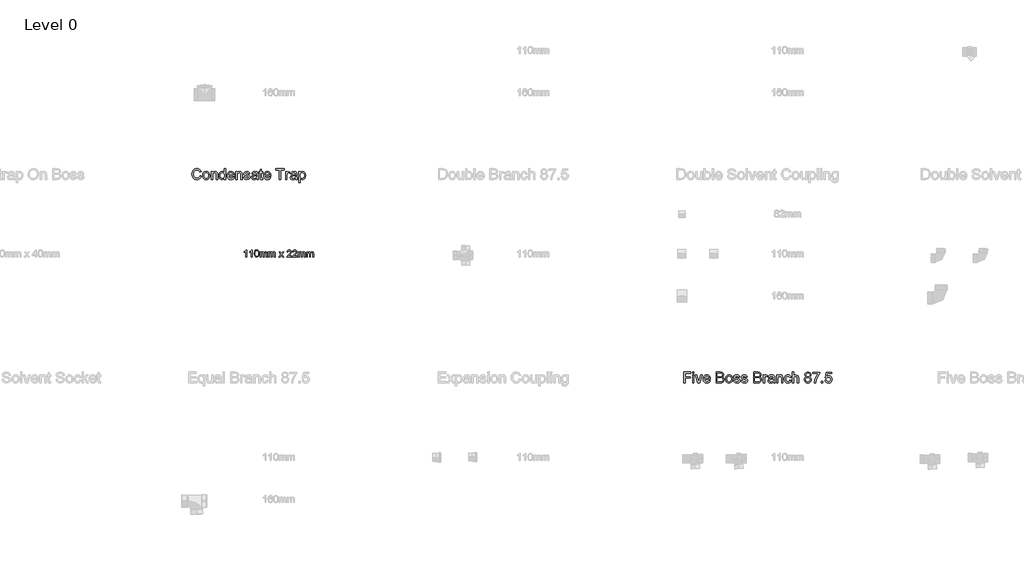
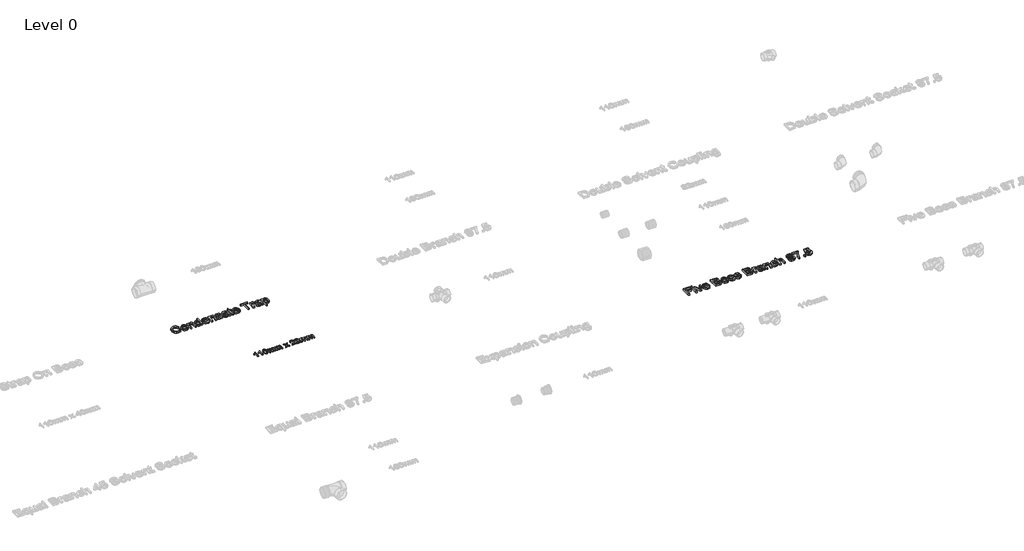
# One storey, part 22 of 28: 3 proxies.
"""IFC4 building model written with IfcOpenShell, lengths in millimetres."""

from ifc_helpers import new_model, si_unit, origin, origin_with_axes, place, context, project, spatial, polyline, outline, extrude, element, save

model = new_model("IFC4")

# Units and contexts
model_context = context("Model", 3, world=origin())
ifc_project = project(units=[si_unit("LENGTHUNIT", "METRE", prefix="MILLI")], contexts=[model_context])

# Site, building, storey
site = spatial("IfcSite", under=ifc_project)
building = spatial("IfcBuilding", under=site)
storey = spatial("IfcBuildingStorey", under=building, Name="Level 0", Elevation=0.0)

# Proxies
placement = place(None, origin())
element("IfcBuildingElementProxy", 1, Name="100mm Arial", ObjectType="100mm Arial", at=placement, inside=storey, context=model_context, shape_type="SweptSolid", body=[
    extrude(outline(polyline([(-7054.0370111, 5437.7167304), (-7066.3447034, 5437.7167304), (-7066.3447034, 5514.4474996), (-7078.0033572, 5506.1422111), (-7090.960088, 5499.9282688), (-7090.960088, 5511.5628842), (-7072.9192226, 5523.0773073), (-7061.9697034, 5536.1782688), (-7054.0370111, 5536.1782688), (-7054.0370111, 5437.7167304)])), origin_with_axes(), (0.0, 0.0, 1.0), 15.0),
    extrude(outline(polyline([(-6978.6523957, 5437.7167304), (-6990.960088, 5437.7167304), (-6990.960088, 5514.4474996), (-7002.6187418, 5506.1422111), (-7015.5754726, 5499.9282688), (-7015.5754726, 5511.5628842), (-6997.5346072, 5523.0773073), (-6986.585088, 5536.1782688), (-6978.6523957, 5536.1782688), (-6978.6523957, 5437.7167304)])), origin_with_axes(), (0.0, 0.0, 1.0), 15.0),
    extrude(outline(polyline([(-6949.4216264, 5486.1542304), (-6945.803838, 5514.4835573), (-6935.0586457, 5530.8176919), (-6917.1139341, 5536.1782688), (-6902.7389341, 5533.0051919), (-6892.8110495, 5523.8585573), (-6887.0418188, 5509.2912496), (-6884.8062418, 5486.1542304), (-6888.3879726, 5457.9450958), (-6899.0971072, 5441.5749035), (-6917.1139341, 5436.1782688), (-6929.9023957, 5438.5220188), (-6939.6139341, 5445.5532688), (-6946.9697034, 5462.2059131), (-6949.4216264, 5486.1542304)]), holes=[polyline([(-6937.1139341, 5486.1782688), (-6935.6716264, 5466.8182929), (-6931.3447034, 5455.613365), (-6924.9023957, 5450.2678121), (-6917.1139341, 5448.4859611), (-6909.3254726, 5450.2738217), (-6902.8831649, 5455.6374035), (-6898.5562418, 5466.848341), (-6897.1139341, 5486.1782688), (-6898.5081649, 5505.1025477), (-6902.6908572, 5516.394615), (-6909.1211457, 5522.0015861), (-6917.2581649, 5523.8705765), (-6924.9624918, 5522.2239419), (-6931.1523957, 5517.2840381), (-6935.6235495, 5505.2888458), (-6937.1139341, 5486.1782688)])]), origin_with_axes(), (0.0, 0.0, 1.0), 15.0),
    extrude(outline(polyline([(-6870.960088, 5437.7167304), (-6870.960088, 5510.0244227), (-6858.6523957, 5510.0244227), (-6858.6523957, 5498.1253842), (-6850.1908572, 5507.8729804), (-6838.147588, 5511.5628842), (-6825.8158572, 5507.800865), (-6819.0370111, 5497.2599996), (-6809.4336457, 5507.9871631), (-6797.3062418, 5511.5628842), (-6788.0544389, 5510.0755044), (-6781.2124918, 5505.613365), (-6776.9847274, 5498.0562736), (-6775.5754726, 5487.2840381), (-6775.5754726, 5437.7167304), (-6787.8831649, 5437.7167304), (-6787.8831649, 5481.9955765), (-6789.0249918, 5492.2720188), (-6793.1596072, 5497.332115), (-6800.1908572, 5499.2551919), (-6812.2942226, 5494.3273073), (-6817.1139341, 5478.5340381), (-6817.1139341, 5437.7167304), (-6829.4216264, 5437.7167304), (-6829.4216264, 5483.3657688), (-6832.2701841, 5495.2888458), (-6841.6091264, 5499.2551919), (-6850.7197034, 5496.6109611), (-6856.7773957, 5488.8705765), (-6858.6523957, 5474.1830765), (-6858.6523957, 5437.7167304), (-6870.960088, 5437.7167304)])), origin_with_axes(), (0.0, 0.0, 1.0), 15.0),
    extrude(outline(polyline([(-6757.1139341, 5437.7167304), (-6757.1139341, 5510.0244227), (-6744.8062418, 5510.0244227), (-6744.8062418, 5498.1253842), (-6736.3447034, 5507.8729804), (-6724.3014341, 5511.5628842), (-6711.9697034, 5507.800865), (-6705.1908572, 5497.2599996), (-6695.5874918, 5507.9871631), (-6683.460088, 5511.5628842), (-6674.2082851, 5510.0755044), (-6667.366338, 5505.613365), (-6663.1385736, 5498.0562736), (-6661.7293188, 5487.2840381), (-6661.7293188, 5437.7167304), (-6674.0370111, 5437.7167304), (-6674.0370111, 5481.9955765), (-6675.178838, 5492.2720188), (-6679.3134534, 5497.332115), (-6686.3447034, 5499.2551919), (-6698.4480688, 5494.3273073), (-6703.2677803, 5478.5340381), (-6703.2677803, 5437.7167304), (-6715.5754726, 5437.7167304), (-6715.5754726, 5483.3657688), (-6718.4240303, 5495.2888458), (-6727.7629726, 5499.2551919), (-6736.8735495, 5496.6109611), (-6742.9312418, 5488.8705765), (-6744.8062418, 5474.1830765), (-6744.8062418, 5437.7167304), (-6757.1139341, 5437.7167304)])), origin_with_axes(), (0.0, 0.0, 1.0), 15.0),
    extrude(outline(polyline([(-6612.4985495, 5437.7167304), (-6586.2004726, 5474.0628842), (-6610.960088, 5510.0244227), (-6596.1523957, 5510.0244227), (-6584.2052803, 5492.7167304), (-6578.6283572, 5484.5436535), (-6573.7966264, 5491.2263458), (-6560.1908572, 5510.0244227), (-6545.3831649, 5510.0244227), (-6571.3927803, 5474.0628842), (-6546.3447034, 5437.7167304), (-6561.1523957, 5437.7167304), (-6576.2245111, 5459.5676919), (-6578.9889341, 5463.5580765), (-6597.6908572, 5437.7167304), (-6612.4985495, 5437.7167304)])), origin_with_axes(), (0.0, 0.0, 1.0), 15.0),
    extrude(outline(polyline([(-6437.1139341, 5450.0244227), (-6437.1139341, 5437.7167304), (-6501.7293188, 5437.7167304), (-6500.4072034, 5446.2023073), (-6492.9312418, 5459.2672111), (-6477.522588, 5473.5340381), (-6456.272588, 5494.0388458), (-6450.960088, 5507.9811535), (-6455.9721072, 5519.2672111), (-6469.0610495, 5523.8705765), (-6482.7028764, 5519.3753842), (-6487.8831649, 5506.9474996), (-6500.1908572, 5508.4859611), (-6497.2070832, 5520.3910092), (-6490.7557611, 5529.0869227), (-6481.1734293, 5534.4054323), (-6468.7966264, 5536.1782688), (-6456.3296793, 5534.207115), (-6446.7653764, 5528.2936535), (-6440.6806409, 5519.4595188), (-6438.6523957, 5508.7263458), (-6440.8398957, 5497.0556727), (-6448.1115303, 5484.988365), (-6465.7437418, 5468.1253842), (-6479.9023957, 5456.2864419), (-6485.4552803, 5450.0244227), (-6437.1139341, 5450.0244227)])), origin_with_axes(), (0.0, 0.0, 1.0), 15.0),
    extrude(outline(polyline([(-6361.7293188, 5450.0244227), (-6361.7293188, 5437.7167304), (-6426.3447034, 5437.7167304), (-6425.022588, 5446.2023073), (-6417.5466264, 5459.2672111), (-6402.1379726, 5473.5340381), (-6380.8879726, 5494.0388458), (-6375.5754726, 5507.9811535), (-6380.5874918, 5519.2672111), (-6393.6764341, 5523.8705765), (-6407.3182611, 5519.3753842), (-6412.4985495, 5506.9474996), (-6424.8062418, 5508.4859611), (-6421.8224678, 5520.3910092), (-6415.3711457, 5529.0869227), (-6405.7888139, 5534.4054323), (-6393.4120111, 5536.1782688), (-6380.9450639, 5534.207115), (-6371.3807611, 5528.2936535), (-6365.2960255, 5519.4595188), (-6363.2677803, 5508.7263458), (-6365.4552803, 5497.0556727), (-6372.7269149, 5484.988365), (-6390.3591264, 5468.1253842), (-6404.5177803, 5456.2864419), (-6410.0706649, 5450.0244227), (-6361.7293188, 5450.0244227)])), origin_with_axes(), (0.0, 0.0, 1.0), 15.0),
    extrude(outline(polyline([(-6346.3447034, 5437.7167304), (-6346.3447034, 5510.0244227), (-6334.0370111, 5510.0244227), (-6334.0370111, 5498.1253842), (-6325.5754726, 5507.8729804), (-6313.5322034, 5511.5628842), (-6301.2004726, 5507.800865), (-6294.4216264, 5497.2599996), (-6284.8182611, 5507.9871631), (-6272.6908572, 5511.5628842), (-6263.4390543, 5510.0755044), (-6256.5971072, 5505.613365), (-6252.3693428, 5498.0562736), (-6250.960088, 5487.2840381), (-6250.960088, 5437.7167304), (-6263.2677803, 5437.7167304), (-6263.2677803, 5481.9955765), (-6264.4096072, 5492.2720188), (-6268.5442226, 5497.332115), (-6275.5754726, 5499.2551919), (-6287.678838, 5494.3273073), (-6292.4985495, 5478.5340381), (-6292.4985495, 5437.7167304), (-6304.8062418, 5437.7167304), (-6304.8062418, 5483.3657688), (-6307.6547995, 5495.2888458), (-6316.9937418, 5499.2551919), (-6326.1043188, 5496.6109611), (-6332.1620111, 5488.8705765), (-6334.0370111, 5474.1830765), (-6334.0370111, 5437.7167304), (-6346.3447034, 5437.7167304)])), origin_with_axes(), (0.0, 0.0, 1.0), 15.0),
    extrude(outline(polyline([(-6232.4985495, 5437.7167304), (-6232.4985495, 5510.0244227), (-6220.1908572, 5510.0244227), (-6220.1908572, 5498.1253842), (-6211.7293188, 5507.8729804), (-6199.6860495, 5511.5628842), (-6187.3543188, 5507.800865), (-6180.5754726, 5497.2599996), (-6170.9721072, 5507.9871631), (-6158.8447034, 5511.5628842), (-6149.5929005, 5510.0755044), (-6142.7509534, 5505.613365), (-6138.5231889, 5498.0562736), (-6137.1139341, 5487.2840381), (-6137.1139341, 5437.7167304), (-6149.4216264, 5437.7167304), (-6149.4216264, 5481.9955765), (-6150.5634534, 5492.2720188), (-6154.6980688, 5497.332115), (-6161.7293188, 5499.2551919), (-6173.8326841, 5494.3273073), (-6178.6523957, 5478.5340381), (-6178.6523957, 5437.7167304), (-6190.960088, 5437.7167304), (-6190.960088, 5483.3657688), (-6193.8086457, 5495.2888458), (-6203.147588, 5499.2551919), (-6212.2581649, 5496.6109611), (-6218.3158572, 5488.8705765), (-6220.1908572, 5474.1830765), (-6220.1908572, 5437.7167304), (-6232.4985495, 5437.7167304)])), origin_with_axes(), (0.0, 0.0, 1.0), 15.0),
])
element("IfcBuildingElementProxy", 2, Name="150mm Arial", ObjectType="150mm Arial", at=placement, inside=storey, context=model_context, shape_type="SweptSolid", body=[
    extrude(outline(polyline([(-7698.2972204, 6557.7145219), (-7679.835682, 6552.9549065), (-7688.3543118, 6531.4419859), (-7701.7227012, 6515.7253392), (-7719.2827973, 6506.111457), (-7740.3765473, 6502.9068296), (-7761.7903094, 6505.3317094), (-7778.7960185, 6512.6063488), (-7791.8308743, 6524.478344), (-7801.3320762, 6540.6952911), (-7807.1328574, 6559.760796), (-7809.0664512, 6580.1784642), (-7806.8804536, 6601.713921), (-7800.3224608, 6620.3106758), (-7789.7350209, 6635.3782839), (-7775.460682, 6646.3263008), (-7758.5315954, 6652.9924666), (-7739.9799127, 6655.2145219), (-7719.7380257, 6652.338921), (-7703.0027493, 6643.7121181), (-7690.2969199, 6629.8659642), (-7682.1433743, 6611.3323104), (-7700.6049127, 6606.9332719), (-7707.0051531, 6620.3963128), (-7715.7491435, 6629.6315892), (-7726.945057, 6634.9726349), (-7740.7010666, 6636.7529835), (-7756.5574368, 6634.7788248), (-7769.5832781, 6628.8563488), (-7779.467593, 6619.6075508), (-7785.8993839, 6607.6544258), (-7790.6049127, 6580.2145219), (-7785.0339993, 6548.4116373), (-7777.912605, 6536.5351349), (-7767.6902493, 6528.0931277), (-7755.4351411, 6523.049558), (-7742.2154897, 6521.3683681), (-7726.8053334, 6523.6580315), (-7713.9642877, 6530.5270219), (-7704.2692757, 6541.9032238), (-7698.2972204, 6557.7145219)])), origin_with_axes(), (0.0, 0.0, 1.0), 25.0),
    extrude(outline(polyline([(-7661.3741435, 6559.4452911), (-7657.3807541, 6585.5961325), (-7645.4005858, 6603.9765411), (-7630.5989031, 6612.9819498), (-7612.8765473, 6615.9837527), (-7593.4820161, 6612.3284041), (-7577.99073, 6601.3623585), (-7567.8359824, 6583.9510003), (-7564.4510666, 6560.9597142), (-7565.9474608, 6542.3088729), (-7570.4366435, 6528.1111565), (-7577.7879055, 6517.4786445), (-7587.8705377, 6509.5234161), (-7599.8461988, 6504.5609762), (-7612.8765473, 6502.9068296), (-7632.5054536, 6506.5486565), (-7647.9787108, 6517.4741373), (-7658.0252853, 6535.2505796), (-7661.3741435, 6559.4452911)]), holes=[polyline([(-7642.912605, 6559.4813488), (-7640.7761868, 6542.7731157), (-7634.366932, 6530.86957), (-7624.7214993, 6523.7436686), (-7612.8765473, 6521.3683681), (-7601.085682, 6523.7571902), (-7591.4582781, 6530.9236565), (-7585.0490233, 6542.9849546), (-7582.912605, 6560.0582719), (-7585.0625449, 6576.2797262), (-7591.5123647, 6588.0210123), (-7601.1532901, 6595.1469137), (-7612.8765473, 6597.5222142), (-7624.7214993, 6595.1559282), (-7634.366932, 6588.05707), (-7640.7761868, 6576.1805676), (-7642.912605, 6559.4813488)])]), origin_with_axes(), (0.0, 0.0, 1.0), 25.0),
    extrude(outline(polyline([(-7543.6818358, 6505.2145219), (-7543.6818358, 6613.6760604), (-7525.2202973, 6613.6760604), (-7525.2202973, 6598.5318296), (-7511.1037108, 6611.6207719), (-7491.8308743, 6615.9837527), (-7474.39698, 6612.4681277), (-7462.4979416, 6603.2373585), (-7456.9630858, 6589.6616373), (-7455.9895281, 6571.8130796), (-7455.9895281, 6505.2145219), (-7474.4510666, 6505.2145219), (-7474.4510666, 6569.3250988), (-7476.5784704, 6585.6592335), (-7484.0964993, 6594.2950508), (-7496.7707781, 6597.5222142), (-7507.5835786, 6595.7103152), (-7516.8008262, 6590.2746181), (-7523.1154296, 6579.7728152), (-7525.2202973, 6562.7625988), (-7525.2202973, 6505.2145219), (-7543.6818358, 6505.2145219)])), origin_with_axes(), (0.0, 0.0, 1.0), 25.0),
    extrude(outline(polyline([(-7363.6818358, 6505.2145219), (-7363.6818358, 6522.6303873), (-7375.8963791, 6507.837719), (-7392.7803935, 6502.9068296), (-7404.7154897, 6504.6916854), (-7415.6409704, 6510.0462527), (-7424.8897685, 6518.596433), (-7431.7948166, 6529.9681277), (-7436.0946964, 6543.7016012), (-7437.5279897, 6559.3371181), (-7432.2455377, 6588.7241373), (-7425.64698, 6600.3797863), (-7416.4162108, 6608.9525027), (-7405.2518478, 6614.2259402), (-7392.8525089, 6615.9837527), (-7375.8332781, 6610.9537046), (-7363.6818358, 6597.8827911), (-7363.6818358, 6652.9068296), (-7345.2202973, 6652.9068296), (-7345.2202973, 6505.2145219), (-7363.6818358, 6505.2145219)]), holes=[polyline([(-7419.0664512, 6559.4092335), (-7416.9841195, 6542.7100147), (-7410.7371243, 6530.8335123), (-7401.6596002, 6523.7346541), (-7391.085682, 6521.3683681), (-7380.5162709, 6523.6264811), (-7371.6686147, 6530.40082), (-7365.6785305, 6541.8175868), (-7363.6818358, 6558.0029835), (-7365.7145882, 6575.698296), (-7371.8128454, 6587.9669258), (-7380.8858622, 6595.1333921), (-7391.8428935, 6597.5222142), (-7402.5249848, 6595.2280436), (-7411.2779897, 6588.3455315), (-7417.1193358, 6576.5231157), (-7419.0664512, 6559.4092335)])]), origin_with_axes(), (0.0, 0.0, 1.0), 25.0),
    extrude(outline(polyline([(-7241.5904897, 6537.5222142), (-7223.4895281, 6535.2145219), (-7230.0114632, 6521.5756998), (-7240.4186147, 6511.3803873), (-7254.4766074, 6505.025219), (-7271.9510666, 6502.9068296), (-7293.6127252, 6506.5621782), (-7310.2803935, 6517.5282238), (-7320.9083983, 6535.0928272), (-7324.4510666, 6558.5438488), (-7320.8723406, 6582.7836325), (-7310.1361627, 6600.9116373), (-7293.693855, 6612.2157238), (-7272.9967397, 6615.9837527), (-7252.9441555, 6612.2247383), (-7236.9210185, 6600.947695), (-7226.4147084, 6582.8557479), (-7222.912605, 6558.6520219), (-7223.0207781, 6553.6760604), (-7305.9895281, 6553.6760604), (-7302.7939151, 6539.8569498), (-7295.3705377, 6529.697695), (-7284.6568959, 6523.4506998), (-7271.5904897, 6521.3683681), (-7253.4895281, 6525.2265411), (-7241.5904897, 6537.5222142)]), holes=[polyline([(-7305.9895281, 6572.1375988), (-7241.3741435, 6572.1375988), (-7243.8711387, 6581.8912046), (-7248.7659704, 6588.8683681), (-7259.5291916, 6595.3587527), (-7273.068855, 6597.5222142), (-7285.5132661, 6595.7959522), (-7295.80323, 6590.6171661), (-7302.9561747, 6582.5447503), (-7305.9895281, 6572.1375988)])]), origin_with_axes(), (0.0, 0.0, 1.0), 25.0),
    extrude(outline(polyline([(-7204.4510666, 6505.2145219), (-7204.4510666, 6613.6760604), (-7185.9895281, 6613.6760604), (-7185.9895281, 6598.5318296), (-7171.8729416, 6611.6207719), (-7152.600105, 6615.9837527), (-7135.1662108, 6612.4681277), (-7123.2671723, 6603.2373585), (-7117.7323166, 6589.6616373), (-7116.7587589, 6571.8130796), (-7116.7587589, 6505.2145219), (-7135.2202973, 6505.2145219), (-7135.2202973, 6569.3250988), (-7137.3477012, 6585.6592335), (-7144.86573, 6594.2950508), (-7157.5400089, 6597.5222142), (-7168.3528094, 6595.7103152), (-7177.570057, 6590.2746181), (-7183.8846603, 6579.7728152), (-7185.9895281, 6562.7625988), (-7185.9895281, 6505.2145219), (-7204.4510666, 6505.2145219)])), origin_with_axes(), (0.0, 0.0, 1.0), 25.0),
    extrude(outline(polyline([(-7098.2972204, 6537.5222142), (-7079.835682, 6539.8299065), (-7076.9240233, 6531.9332719), (-7071.2900089, 6526.1279835), (-7051.710682, 6521.3683681), (-7032.8885666, 6525.7313488), (-7026.7587589, 6535.9717335), (-7032.9246243, 6544.2650027), (-7051.9270281, 6549.5294258), (-7079.7275089, 6558.5618777), (-7091.8609223, 6569.1087527), (-7095.9895281, 6584.0005796), (-7092.6722204, 6597.7565892), (-7083.6217397, 6608.2674065), (-7071.8849608, 6613.7301469), (-7056.0015473, 6615.9837527), (-7033.537605, 6612.3599546), (-7019.2587589, 6602.5522623), (-7012.912605, 6585.9837527), (-7031.3741435, 6583.6760604), (-7038.3152493, 6593.8623585), (-7054.5592397, 6597.5222142), (-7072.2275089, 6594.0246181), (-7077.5279897, 6585.8755796), (-7075.3284704, 6580.5029835), (-7068.4414512, 6576.4284642), (-7052.5400089, 6572.4981758), (-7025.4426531, 6563.8082719), (-7012.8585185, 6553.9645219), (-7008.2972204, 6537.9188488), (-7013.6517877, 6520.2505796), (-7029.1025089, 6507.43207), (-7051.9630858, 6502.9068296), (-7070.5778695, 6505.08832), (-7084.162605, 6511.6327911), (-7093.2311147, 6522.4681277), (-7098.2972204, 6537.5222142)])), origin_with_axes(), (0.0, 0.0, 1.0), 25.0),
    extrude(outline(polyline([(-6918.2972204, 6519.0606758), (-6936.1998647, 6506.5486565), (-6955.9775089, 6502.9068296), (-6971.405694, 6505.0973344), (-6982.7864031, 6511.6688488), (-6989.8041315, 6521.6478152), (-6992.1433743, 6534.0606758), (-6988.6097204, 6548.6640411), (-6979.3248647, 6559.2650027), (-6966.398182, 6565.322695), (-6950.4246243, 6568.0991373), (-6918.4053935, 6574.4452911), (-6918.2972204, 6578.5558681), (-6919.5682541, 6586.7950508), (-6923.381355, 6592.1856758), (-6931.9089993, 6596.1880796), (-6943.7900089, 6597.5222142), (-6962.4678935, 6593.9705315), (-6971.3741435, 6581.3683681), (-6989.835682, 6583.6760604), (-6981.8489031, 6601.7049065), (-6965.7671723, 6612.2698104), (-6941.4102012, 6615.9837527), (-6919.0364031, 6612.7025027), (-6906.398182, 6604.46332), (-6900.7371243, 6591.9332719), (-6899.835682, 6575.7794258), (-6899.835682, 6552.8106758), (-6898.898182, 6520.7373585), (-6895.2202973, 6505.2145219), (-6913.6818358, 6505.2145219), (-6918.2972204, 6519.0606758)]), holes=[polyline([(-6918.2972204, 6555.9837527), (-6948.0808743, 6550.322695), (-6963.9642877, 6547.3299065), (-6971.1577973, 6542.4621181), (-6973.6818358, 6535.3587527), (-6968.1830377, 6525.3707719), (-6952.0472204, 6521.3683681), (-6933.3693358, 6525.7854354), (-6921.3260666, 6536.4765411), (-6918.4053935, 6550.7553873), (-6918.2972204, 6555.9837527)])]), origin_with_axes(), (0.0, 0.0, 1.0), 25.0),
    extrude(outline(polyline([(-6835.2202973, 6520.6111565), (-6832.912605, 6504.6736565), (-6846.7227012, 6502.9068296), (-6862.1914512, 6505.9717335), (-6869.9077973, 6514.0125988), (-6872.1433743, 6534.9621181), (-6872.1433743, 6595.2145219), (-6885.9895281, 6595.2145219), (-6885.9895281, 6613.6760604), (-6872.1433743, 6613.6760604), (-6872.1433743, 6640.0342335), (-6853.6818358, 6650.8875988), (-6853.6818358, 6613.6760604), (-6835.2202973, 6613.6760604), (-6835.2202973, 6595.2145219), (-6853.6818358, 6595.2145219), (-6853.6818358, 6535.5029835), (-6852.7082781, 6525.9837527), (-6849.55323, 6522.6123585), (-6843.2611627, 6521.3683681), (-6835.2202973, 6520.6111565)])), origin_with_axes(), (0.0, 0.0, 1.0), 25.0),
    extrude(outline(polyline([(-6740.8212589, 6537.5222142), (-6722.7202973, 6535.2145219), (-6729.2422324, 6521.5756998), (-6739.6493839, 6511.3803873), (-6753.7073767, 6505.025219), (-6771.1818358, 6502.9068296), (-6792.8434945, 6506.5621782), (-6809.5111627, 6517.5282238), (-6820.1391675, 6535.0928272), (-6823.6818358, 6558.5438488), (-6820.1031098, 6582.7836325), (-6809.366932, 6600.9116373), (-6792.9246243, 6612.2157238), (-6772.2275089, 6615.9837527), (-6752.1749247, 6612.2247383), (-6736.1517877, 6600.947695), (-6725.6454776, 6582.8557479), (-6722.1433743, 6558.6520219), (-6722.2515473, 6553.6760604), (-6805.2202973, 6553.6760604), (-6802.0246844, 6539.8569498), (-6794.601307, 6529.697695), (-6783.8876651, 6523.4506998), (-6770.8212589, 6521.3683681), (-6752.7202973, 6525.2265411), (-6740.8212589, 6537.5222142)]), holes=[polyline([(-6805.2202973, 6572.1375988), (-6740.6049127, 6572.1375988), (-6743.1019079, 6581.8912046), (-6747.9967397, 6588.8683681), (-6758.7599608, 6595.3587527), (-6772.2996243, 6597.5222142), (-6784.7440353, 6595.7959522), (-6795.0339993, 6590.6171661), (-6802.186944, 6582.5447503), (-6805.2202973, 6572.1375988)])]), origin_with_axes(), (0.0, 0.0, 1.0), 25.0),
    extrude(outline(polyline([(-6606.7587589, 6505.2145219), (-6606.7587589, 6634.4452911), (-6655.2202973, 6634.4452911), (-6655.2202973, 6652.9068296), (-6539.835682, 6652.9068296), (-6539.835682, 6634.4452911), (-6588.2972204, 6634.4452911), (-6588.2972204, 6505.2145219), (-6606.7587589, 6505.2145219)])), origin_with_axes(), (0.0, 0.0, 1.0), 25.0),
    extrude(outline(polyline([(-6521.3741435, 6505.2145219), (-6521.3741435, 6613.6760604), (-6505.2202973, 6613.6760604), (-6505.2202973, 6597.6303873), (-6493.7539512, 6612.4140411), (-6482.2154897, 6615.9837527), (-6463.6818358, 6610.2866373), (-6469.8477012, 6593.7361565), (-6482.8284704, 6597.5222142), (-6493.2671723, 6593.8803873), (-6499.9198166, 6583.7842335), (-6502.912605, 6562.2217335), (-6502.912605, 6505.2145219), (-6521.3741435, 6505.2145219)])), origin_with_axes(), (0.0, 0.0, 1.0), 25.0),
    extrude(outline(polyline([(-6382.912605, 6519.0606758), (-6400.8152493, 6506.5486565), (-6420.5928935, 6502.9068296), (-6436.0210786, 6505.0973344), (-6447.4017877, 6511.6688488), (-6454.4195161, 6521.6478152), (-6456.7587589, 6534.0606758), (-6453.225105, 6548.6640411), (-6443.9402493, 6559.2650027), (-6431.0135666, 6565.322695), (-6415.0400089, 6568.0991373), (-6383.0207781, 6574.4452911), (-6382.912605, 6578.5558681), (-6384.1836387, 6586.7950508), (-6387.9967397, 6592.1856758), (-6396.5243839, 6596.1880796), (-6408.4053935, 6597.5222142), (-6427.0832781, 6593.9705315), (-6435.9895281, 6581.3683681), (-6454.4510666, 6583.6760604), (-6446.4642877, 6601.7049065), (-6430.382557, 6612.2698104), (-6406.0255858, 6615.9837527), (-6383.6517877, 6612.7025027), (-6371.0135666, 6604.46332), (-6365.3525089, 6591.9332719), (-6364.4510666, 6575.7794258), (-6364.4510666, 6552.8106758), (-6363.5135666, 6520.7373585), (-6359.835682, 6505.2145219), (-6378.2972204, 6505.2145219), (-6382.912605, 6519.0606758)]), holes=[polyline([(-6382.912605, 6555.9837527), (-6412.6962589, 6550.322695), (-6428.5796723, 6547.3299065), (-6435.773182, 6542.4621181), (-6438.2972204, 6535.3587527), (-6432.7984223, 6525.3707719), (-6416.662605, 6521.3683681), (-6397.9847204, 6525.7854354), (-6385.9414512, 6536.4765411), (-6383.0207781, 6550.7553873), (-6382.912605, 6555.9837527)])]), origin_with_axes(), (0.0, 0.0, 1.0), 25.0),
    extrude(outline(polyline([(-6339.0664512, 6463.6760604), (-6339.0664512, 6613.6760604), (-6320.6049127, 6613.6760604), (-6320.6049127, 6595.5750988), (-6307.8404897, 6610.8815892), (-6290.6049127, 6615.9837527), (-6278.1199368, 6614.1988969), (-6267.2034704, 6608.8443296), (-6258.3152493, 6600.24457), (-6251.9150089, 6588.7241373), (-6246.7587589, 6560.2746181), (-6248.2145882, 6544.4858561), (-6252.5820762, 6530.3647623), (-6259.7214993, 6518.6279835), (-6269.4931339, 6509.9921661), (-6280.873843, 6504.6781637), (-6292.8404897, 6502.9068296), (-6308.9041916, 6507.6484161), (-6320.6049127, 6519.6375988), (-6320.6049127, 6463.6760604), (-6339.0664512, 6463.6760604)]), holes=[polyline([(-6320.6049127, 6558.5799065), (-6318.608218, 6542.0294258), (-6312.6181339, 6530.4549065), (-6303.7794921, 6523.6400027), (-6293.2371243, 6521.3683681), (-6282.5234824, 6523.7211325), (-6273.45948, 6530.7794258), (-6267.280093, 6542.7776229), (-6265.2202973, 6559.9500988), (-6267.2305137, 6576.4104354), (-6273.2611627, 6588.1472142), (-6282.0862829, 6595.1784642), (-6292.4799127, 6597.5222142), (-6302.9141074, 6595.0297262), (-6312.0772685, 6587.5522623), (-6318.4730017, 6575.3241974), (-6320.6049127, 6558.5799065)])]), origin_with_axes(), (0.0, 0.0, 1.0), 25.0),
])
element("IfcBuildingElementProxy", 3, Name="150mm Arial", ObjectType="150mm Arial", at=placement, inside=storey, context=model_context, shape_type="SweptSolid", body=[
    extrude(outline(polyline([(-1044.4510666, 3705.2145219), (-1044.4510666, 3852.9068296), (-945.2202973, 3852.9068296), (-945.2202973, 3834.4452911), (-1025.9895281, 3834.4452911), (-1025.9895281, 3790.5991373), (-956.7587589, 3790.5991373), (-956.7587589, 3772.1375988), (-1025.9895281, 3772.1375988), (-1025.9895281, 3705.2145219), (-1044.4510666, 3705.2145219)])), origin_with_axes(), (0.0, 0.0, 1.0), 25.0),
    extrude(outline(polyline([(-922.1433743, 3834.4452911), (-922.1433743, 3852.9068296), (-903.6818358, 3852.9068296), (-903.6818358, 3834.4452911), (-922.1433743, 3834.4452911)])), origin_with_axes(), (0.0, 0.0, 1.0), 25.0),
    extrude(outline(polyline([(-922.1433743, 3705.2145219), (-922.1433743, 3813.6760604), (-903.6818358, 3813.6760604), (-903.6818358, 3705.2145219), (-922.1433743, 3705.2145219)])), origin_with_axes(), (0.0, 0.0, 1.0), 25.0),
    extrude(outline(polyline([(-849.3789512, 3705.2145219), (-887.5279897, 3813.6760604), (-867.9847204, 3813.6760604), (-844.8717397, 3748.7000988), (-837.912605, 3726.8491373), (-831.0977012, 3747.4741373), (-807.8404897, 3813.6760604), (-788.2972204, 3813.6760604), (-825.9775089, 3705.2145219), (-849.3789512, 3705.2145219)])), origin_with_axes(), (0.0, 0.0, 1.0), 25.0),
    extrude(outline(polyline([(-696.2058743, 3737.5222142), (-678.1049127, 3735.2145219), (-684.6268478, 3721.5756998), (-695.0339993, 3711.3803873), (-709.0919921, 3705.025219), (-726.5664512, 3702.9068296), (-748.2281098, 3706.5621782), (-764.8957781, 3717.5282238), (-775.5237829, 3735.0928272), (-779.0664512, 3758.5438488), (-775.4877252, 3782.7836325), (-764.7515473, 3800.9116373), (-748.3092397, 3812.2157238), (-727.6121243, 3815.9837527), (-707.5595401, 3812.2247383), (-691.5364031, 3800.947695), (-681.030093, 3782.8557479), (-677.5279897, 3758.6520219), (-677.6361627, 3753.6760604), (-760.6049127, 3753.6760604), (-757.4092997, 3739.8569498), (-749.9859223, 3729.697695), (-739.2722805, 3723.4506998), (-726.2058743, 3721.3683681), (-708.1049127, 3725.2265411), (-696.2058743, 3737.5222142)]), holes=[polyline([(-760.6049127, 3772.1375988), (-695.9895281, 3772.1375988), (-698.4865233, 3781.8912046), (-703.381355, 3788.8683681), (-714.1445762, 3795.3587527), (-727.6842397, 3797.5222142), (-740.1286507, 3795.7959522), (-750.4186147, 3790.6171661), (-757.5715594, 3782.5447503), (-760.6049127, 3772.1375988)])]), origin_with_axes(), (0.0, 0.0, 1.0), 25.0),
    extrude(outline(polyline([(-599.0664512, 3705.2145219), (-599.0664512, 3852.9068296), (-542.7082781, 3852.9068296), (-515.1061147, 3848.5618777), (-505.8302733, 3843.049558), (-498.8080377, 3835.2025027), (-492.912605, 3816.3082719), (-497.8705377, 3799.0546661), (-512.8525089, 3785.9837527), (-502.3912709, 3780.5210123), (-494.6614031, 3772.2097142), (-489.8882661, 3761.5997383), (-488.2972204, 3749.2409642), (-492.6421723, 3729.3912046), (-503.4053935, 3715.2565892), (-519.4690954, 3707.7565892), (-543.1409704, 3705.2145219), (-599.0664512, 3705.2145219)]), holes=[polyline([(-580.6049127, 3723.6760604), (-542.7443358, 3723.6760604), (-529.0424127, 3724.3972142), (-517.4498647, 3728.4176469), (-509.7695762, 3736.6207719), (-506.7587589, 3749.0606758), (-510.2924127, 3763.4116373), (-521.74073, 3771.9753392), (-544.5472204, 3774.4452911), (-580.6049127, 3774.4452911), (-580.6049127, 3723.6760604)]), polyline([(-580.6049127, 3792.9068296), (-546.8909704, 3792.9068296), (-527.2034704, 3794.4933681), (-515.3585185, 3801.3263008), (-511.3741435, 3813.3515411), (-515.0880858, 3825.3948104), (-525.725105, 3832.5162046), (-549.4510666, 3834.4452911), (-580.6049127, 3834.4452911), (-580.6049127, 3792.9068296)])]), origin_with_axes(), (0.0, 0.0, 1.0), 25.0),
    extrude(outline(polyline([(-469.835682, 3759.4452911), (-465.8422925, 3785.5961325), (-453.8621243, 3803.9765411), (-439.0604416, 3812.9819498), (-421.3380858, 3815.9837527), (-401.9435546, 3812.3284041), (-386.4522685, 3801.3623585), (-376.2975209, 3783.9510003), (-372.912605, 3760.9597142), (-374.4089993, 3742.3088729), (-378.898182, 3728.1111565), (-386.249444, 3717.4786445), (-396.3320762, 3709.5234161), (-408.3077372, 3704.5609762), (-421.3380858, 3702.9068296), (-440.9669921, 3706.5486565), (-456.4402493, 3717.4741373), (-466.4868238, 3735.2505796), (-469.835682, 3759.4452911)]), holes=[polyline([(-451.3741435, 3759.4813488), (-449.2377252, 3742.7731157), (-442.8284704, 3730.86957), (-433.1830377, 3723.7436686), (-421.3380858, 3721.3683681), (-409.5472204, 3723.7571902), (-399.9198166, 3730.9236565), (-393.5105618, 3742.9849546), (-391.3741435, 3760.0582719), (-393.5240834, 3776.2797262), (-399.9739031, 3788.0210123), (-409.6148286, 3795.1469137), (-421.3380858, 3797.5222142), (-433.1830377, 3795.1559282), (-442.8284704, 3788.05707), (-449.2377252, 3776.1805676), (-451.3741435, 3759.4813488)])]), origin_with_axes(), (0.0, 0.0, 1.0), 25.0),
    extrude(outline(polyline([(-359.0664512, 3737.5222142), (-340.6049127, 3739.8299065), (-337.6932541, 3731.9332719), (-332.0592397, 3726.1279835), (-312.4799127, 3721.3683681), (-293.6577973, 3725.7313488), (-287.5279897, 3735.9717335), (-293.693855, 3744.2650027), (-312.6962589, 3749.5294258), (-340.4967397, 3758.5618777), (-352.6301531, 3769.1087527), (-356.7587589, 3784.0005796), (-353.4414512, 3797.7565892), (-344.3909704, 3808.2674065), (-332.6541916, 3813.7301469), (-316.7707781, 3815.9837527), (-294.3068358, 3812.3599546), (-280.0279897, 3802.5522623), (-273.6818358, 3785.9837527), (-292.1433743, 3783.6760604), (-299.08448, 3793.8623585), (-315.3284704, 3797.5222142), (-332.9967397, 3794.0246181), (-338.2972204, 3785.8755796), (-336.0977012, 3780.5029835), (-329.210682, 3776.4284642), (-313.3092397, 3772.4981758), (-286.2118839, 3763.8082719), (-273.6277493, 3753.9645219), (-269.0664512, 3737.9188488), (-274.4210185, 3720.2505796), (-289.8717397, 3707.43207), (-312.7323166, 3702.9068296), (-331.3471002, 3705.08832), (-344.9318358, 3711.6327911), (-354.0003454, 3722.4681277), (-359.0664512, 3737.5222142)])), origin_with_axes(), (0.0, 0.0, 1.0), 25.0),
    extrude(outline(polyline([(-255.2202973, 3737.5222142), (-236.7587589, 3739.8299065), (-233.8471002, 3731.9332719), (-228.2130858, 3726.1279835), (-208.6337589, 3721.3683681), (-189.8116435, 3725.7313488), (-183.6818358, 3735.9717335), (-189.8477012, 3744.2650027), (-208.850105, 3749.5294258), (-236.6505858, 3758.5618777), (-248.7839993, 3769.1087527), (-252.912605, 3784.0005796), (-249.5952973, 3797.7565892), (-240.5448166, 3808.2674065), (-228.8080377, 3813.7301469), (-212.9246243, 3815.9837527), (-190.460682, 3812.3599546), (-176.1818358, 3802.5522623), (-169.835682, 3785.9837527), (-188.2972204, 3783.6760604), (-195.2383262, 3793.8623585), (-211.4823166, 3797.5222142), (-229.1505858, 3794.0246181), (-234.4510666, 3785.8755796), (-232.2515473, 3780.5029835), (-225.3645281, 3776.4284642), (-209.4630858, 3772.4981758), (-182.36573, 3763.8082719), (-169.7815954, 3753.9645219), (-165.2202973, 3737.9188488), (-170.5748647, 3720.2505796), (-186.0255858, 3707.43207), (-208.8861627, 3702.9068296), (-227.5009464, 3705.08832), (-241.085682, 3711.6327911), (-250.1541916, 3722.4681277), (-255.2202973, 3737.5222142)])), origin_with_axes(), (0.0, 0.0, 1.0), 25.0),
    extrude(outline(polyline([(-84.4510666, 3705.2145219), (-84.4510666, 3852.9068296), (-28.0928935, 3852.9068296), (-0.49073, 3848.5618777), (8.7851113, 3843.049558), (15.8073469, 3835.2025027), (21.7027796, 3816.3082719), (16.7448469, 3799.0546661), (1.7628757, 3785.9837527), (12.2241137, 3780.5210123), (19.9539815, 3772.2097142), (24.7271185, 3761.5997383), (26.3181642, 3749.2409642), (21.9732123, 3729.3912046), (11.2099911, 3715.2565892), (-4.8537108, 3707.7565892), (-28.5255858, 3705.2145219), (-84.4510666, 3705.2145219)]), holes=[polyline([(-65.9895281, 3723.6760604), (-28.1289512, 3723.6760604), (-14.4270281, 3724.3972142), (-2.83448, 3728.4176469), (4.8458084, 3736.6207719), (7.8566257, 3749.0606758), (4.3229719, 3763.4116373), (-7.1253454, 3771.9753392), (-29.9318358, 3774.4452911), (-65.9895281, 3774.4452911), (-65.9895281, 3723.6760604)]), polyline([(-65.9895281, 3792.9068296), (-32.2755858, 3792.9068296), (-12.5880858, 3794.4933681), (-0.7431339, 3801.3263008), (3.2412411, 3813.3515411), (-0.4727012, 3825.3948104), (-11.1097204, 3832.5162046), (-34.835682, 3834.4452911), (-65.9895281, 3834.4452911), (-65.9895281, 3792.9068296)])]), origin_with_axes(), (0.0, 0.0, 1.0), 25.0),
    extrude(outline(polyline([(49.3950873, 3705.2145219), (49.3950873, 3813.6760604), (65.5489334, 3813.6760604), (65.5489334, 3797.6303873), (77.0152796, 3812.4140411), (88.5537411, 3815.9837527), (107.087395, 3810.2866373), (100.9215296, 3793.7361565), (87.9407603, 3797.5222142), (77.5020584, 3793.8803873), (70.8494142, 3783.7842335), (67.8566257, 3762.2217335), (67.8566257, 3705.2145219), (49.3950873, 3705.2145219)])), origin_with_axes(), (0.0, 0.0, 1.0), 25.0),
    extrude(outline(polyline([(187.8566257, 3719.0606758), (169.9539815, 3706.5486565), (150.1763373, 3702.9068296), (134.7481522, 3705.0973344), (123.367443, 3711.6688488), (116.3497147, 3721.6478152), (114.0104719, 3734.0606758), (117.5441257, 3748.6640411), (126.8289815, 3759.2650027), (139.7556642, 3765.322695), (155.7292219, 3768.0991373), (187.7484527, 3774.4452911), (187.8566257, 3778.5558681), (186.5855921, 3786.7950508), (182.7724911, 3792.1856758), (174.2448469, 3796.1880796), (162.3638373, 3797.5222142), (143.6859527, 3793.9705315), (134.7797027, 3781.3683681), (116.3181642, 3783.6760604), (124.304943, 3801.7049065), (140.3866738, 3812.2698104), (164.743645, 3815.9837527), (187.117443, 3812.7025027), (199.7556642, 3804.46332), (205.4167219, 3791.9332719), (206.3181642, 3775.7794258), (206.3181642, 3752.8106758), (207.2556642, 3720.7373585), (210.9335488, 3705.2145219), (192.4720103, 3705.2145219), (187.8566257, 3719.0606758)]), holes=[polyline([(187.8566257, 3755.9837527), (158.0729719, 3750.322695), (142.1895584, 3747.3299065), (134.9960488, 3742.4621181), (132.4720103, 3735.3587527), (137.9708084, 3725.3707719), (154.1066257, 3721.3683681), (172.7845103, 3725.7854354), (184.8277796, 3736.4765411), (187.7484527, 3750.7553873), (187.8566257, 3755.9837527)])]), origin_with_axes(), (0.0, 0.0, 1.0), 25.0),
    extrude(outline(polyline([(231.7027796, 3705.2145219), (231.7027796, 3813.6760604), (250.164318, 3813.6760604), (250.164318, 3798.5318296), (264.2809046, 3811.6207719), (283.5537411, 3815.9837527), (300.9876353, 3812.4681277), (312.8866738, 3803.2373585), (318.4215296, 3789.6616373), (319.3950873, 3771.8130796), (319.3950873, 3705.2145219), (300.9335488, 3705.2145219), (300.9335488, 3769.3250988), (298.806145, 3785.6592335), (291.2881161, 3794.2950508), (278.6138373, 3797.5222142), (267.8010368, 3795.7103152), (258.5837892, 3790.2746181), (252.2691858, 3779.7728152), (250.164318, 3762.7625988), (250.164318, 3705.2145219), (231.7027796, 3705.2145219)])), origin_with_axes(), (0.0, 0.0, 1.0), 25.0),
    extrude(outline(polyline([(414.0104719, 3744.4452911), (432.4720103, 3742.1375988), (427.3247748, 3725.7178272), (417.6522988, 3713.3094738), (404.3650392, 3705.5074907), (388.3734527, 3702.9068296), (368.735532, 3706.5351349), (353.3794623, 3717.4200508), (343.4681041, 3735.0838128), (340.164318, 3759.0486565), (345.8073469, 3789.7157238), (352.9287411, 3801.2136205), (363.0068661, 3809.4212527), (375.063657, 3814.3431277), (388.1210488, 3815.9837527), (403.7205079, 3813.7301469), (416.1919623, 3806.9693296), (425.1387772, 3796.0618777), (430.164318, 3781.3683681), (411.7027796, 3779.0606758), (403.1390777, 3792.8888008), (388.2652796, 3797.5222142), (376.3346906, 3795.2415652), (366.8650392, 3788.3996181), (360.6856522, 3776.6267815), (358.6258565, 3759.5534642), (360.6405801, 3742.2502791), (366.6847507, 3730.4368777), (375.9831281, 3723.6354955), (387.7604719, 3721.3683681), (397.3202676, 3722.7836325), (405.1583084, 3727.0294258), (410.859931, 3734.213921), (414.0104719, 3744.4452911)])), origin_with_axes(), (0.0, 0.0, 1.0), 25.0),
    extrude(outline(polyline([(448.6258565, 3705.2145219), (448.6258565, 3852.9068296), (467.087395, 3852.9068296), (467.087395, 3798.603945), (481.4834286, 3811.6388008), (499.2147988, 3815.9837527), (519.9479719, 3811.2421661), (532.5321065, 3798.135195), (536.3181642, 3773.8683681), (536.3181642, 3705.2145219), (517.8566257, 3705.2145219), (517.8566257, 3771.9573104), (516.3872748, 3783.5138008), (511.9792219, 3791.4284642), (504.8758565, 3795.9987767), (495.320568, 3797.5222142), (480.1943661, 3793.4116373), (470.0982123, 3782.2698104), (467.087395, 3762.8347142), (467.087395, 3705.2145219), (448.6258565, 3705.2145219)])), origin_with_axes(), (0.0, 0.0, 1.0), 25.0),
    extrude(outline(polyline([(641.6787411, 3786.5606758), (624.8578277, 3798.0270219), (619.3950873, 3815.8755796), (622.3698469, 3830.307671), (631.2941257, 3842.2337527), (645.1673228, 3850.2385604), (662.9888373, 3852.9068296), (680.9185248, 3850.1754594), (694.9720103, 3841.9813488), (704.0585488, 3829.8659642), (707.087395, 3815.3707719), (701.69677, 3797.9729354), (685.3446065, 3786.5606758), (696.7072868, 3780.705808), (704.97802, 3772.0835123), (710.0215897, 3761.1084522), (711.7027796, 3748.1952911), (708.367443, 3730.5450508), (698.3614334, 3715.9597142), (682.9107123, 3706.1700508), (663.2412411, 3702.9068296), (643.57177, 3706.1835724), (628.1210488, 3716.0138008), (618.1150392, 3730.7388609), (614.7797027, 3748.7000988), (616.5285007, 3762.1135604), (621.774895, 3773.1472142), (630.2484527, 3781.4224546), (641.6787411, 3786.5606758)]), holes=[polyline([(633.2412411, 3749.3491373), (636.3241738, 3735.4488969), (647.2316257, 3725.0462527), (663.3854719, 3721.3683681), (675.9515777, 3723.3019618), (685.3806642, 3729.1027431), (691.2760969, 3737.8872984), (693.2412411, 3748.7722142), (691.2129959, 3759.8419258), (685.1282603, 3768.8202911), (675.4828277, 3774.7698104), (662.7724911, 3776.7529835), (650.3821666, 3774.7968536), (641.0477315, 3768.9284642), (635.1928637, 3760.1213729), (633.2412411, 3749.3491373)]), polyline([(637.8566257, 3815.3347142), (639.4927435, 3807.27582), (644.4010969, 3800.8395219), (652.4374551, 3796.6207719), (663.4575873, 3795.2145219), (674.2208084, 3796.6117575), (682.1354719, 3800.8034642), (687.0032603, 3807.0234161), (688.6258565, 3814.5053873), (686.9491738, 3822.2713128), (681.9191257, 3828.6940892), (673.8962892, 3833.0074907), (663.2412411, 3834.4452911), (652.5185849, 3833.0390411), (644.50927, 3828.8202911), (639.5197868, 3822.6363969), (637.8566257, 3815.3347142)])]), origin_with_axes(), (0.0, 0.0, 1.0), 25.0),
    extrude(outline(polyline([(727.8566257, 3832.1375988), (727.8566257, 3850.5991373), (824.7797027, 3850.5991373), (824.7797027, 3835.6712527), (797.2857123, 3795.9537046), (776.2460488, 3745.3467335), (769.3950873, 3705.2145219), (750.9335488, 3705.2145219), (758.2712892, 3746.8611565), (778.4095103, 3793.9344738), (806.3181642, 3832.1375988), (727.8566257, 3832.1375988)])), origin_with_axes(), (0.0, 0.0, 1.0), 25.0),
    extrude(outline(polyline([(850.164318, 3705.2145219), (850.164318, 3723.6760604), (868.6258565, 3723.6760604), (868.6258565, 3705.2145219), (850.164318, 3705.2145219)])), origin_with_axes(), (0.0, 0.0, 1.0), 25.0),
    extrude(outline(polyline([(898.6258565, 3744.4452911), (917.087395, 3746.7529835), (920.476818, 3735.6697503), (926.3902796, 3727.7325508), (934.8007363, 3722.9594137), (945.681145, 3721.3683681), (958.914318, 3723.5814089), (968.8301834, 3730.2205315), (975.0230921, 3740.5195099), (977.087395, 3753.7121181), (975.1538012, 3766.1339931), (969.35302, 3775.635195), (959.6399791, 3781.665844), (945.9696065, 3783.6760604), (929.7616738, 3780.4669258), (919.3950873, 3772.1375988), (900.9335488, 3774.4452911), (917.087395, 3850.5991373), (988.6258565, 3850.5991373), (988.6258565, 3832.1375988), (932.0152796, 3832.1375988), (924.118645, 3791.4645219), (937.3067459, 3799.4693296), (951.1258565, 3802.1375988), (968.3749551, 3798.8293056), (982.6943661, 3788.9044258), (992.3352916, 3773.7782238), (995.5489334, 3754.8659642), (992.6553036, 3736.4044258), (983.9744142, 3720.6111565), (967.351818, 3707.3329113), (945.6090296, 3702.9068296), (927.4765176, 3705.7508801), (913.0309046, 3714.2830315), (903.1285608, 3727.5116974), (898.6258565, 3744.4452911)])), origin_with_axes(), (0.0, 0.0, 1.0), 25.0),
])

save(model, "model.ifc")
